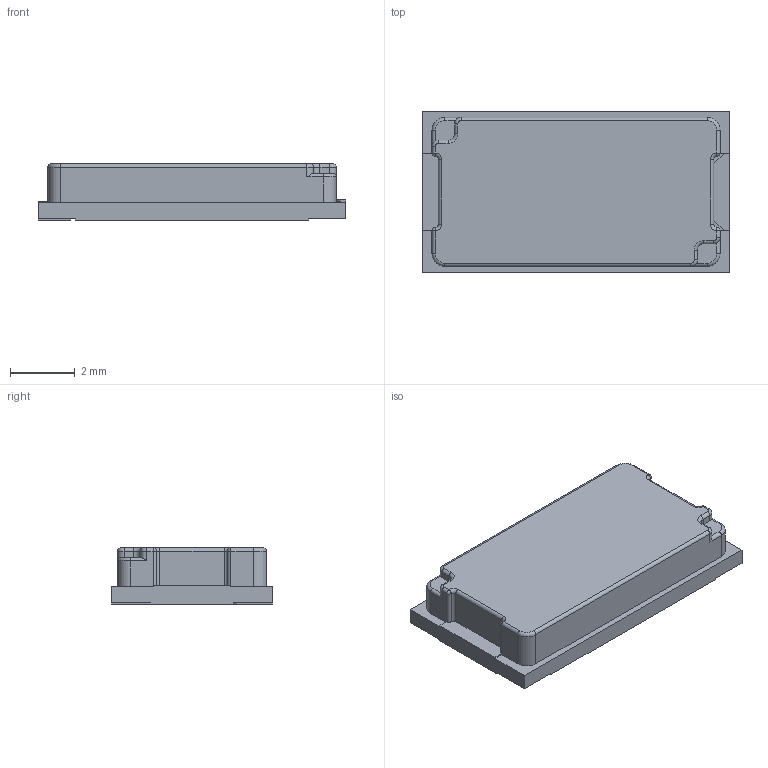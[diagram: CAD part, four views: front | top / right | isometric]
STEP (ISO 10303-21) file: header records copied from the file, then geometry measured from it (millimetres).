
FILE_DESCRIPTION(/* description */ ('Unknown'),/* implementation_level */ '2;1');
FILE_NAME(/* name */ 'SHP',/* time_stamp */ '2024-03-29T10:49:35+08:00',/* author */ ('Unknown'),/* organization */ ('Unknown'),/* preprocessor_version */ 'ST-DEVELOPER v16.7',/* originating_system */ 'Solid Edge',/* authorisation */ 'Unknown');
FILE_SCHEMA (('AUTOMOTIVE_DESIGN {1 0 10303 214 3 1 1}'));
Length unit declared in the file: millimetre
Products named in the file (1): SHP
Bounding box: 9.5 x 5 x 1.74 mm (x, y, z)
Volume: 72.3 mm3; surface area: 142 mm2
Topology: 1 solids, 1 shells, 102 faces, 264 edges, 160 vertices
Faces by surface type: plane 50, cylinder 34, torus 14, sphere 4
Entity records: 3802 total; most frequent: CARTESIAN_POINT 549, DIRECTION 544, ORIENTED_EDGE 520, EDGE_CURVE 260, AXIS2_PLACEMENT_3D 185, LINE 174, VECTOR 174, VERTEX_POINT 160
